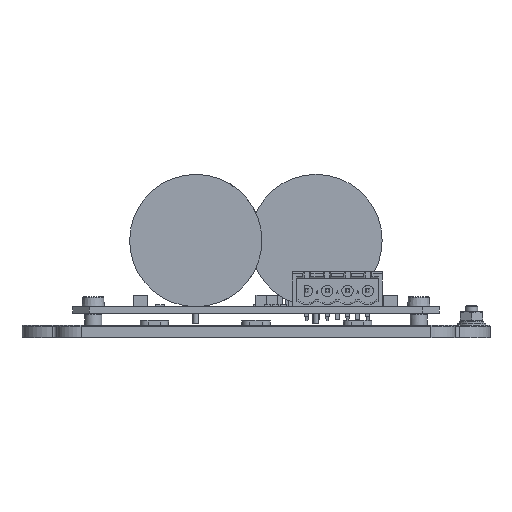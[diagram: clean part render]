
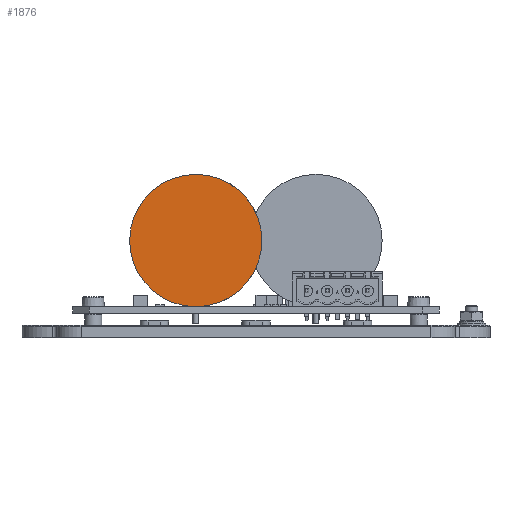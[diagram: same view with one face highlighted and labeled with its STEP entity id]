
A CAD part, front view. The second image highlights one B-rep face of the part: STEP entity #1876.
In plain terms, the highlighted planar face has unit normal (0, -1, 0).
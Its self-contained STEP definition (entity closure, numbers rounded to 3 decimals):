
#1214=CIRCLE('',#17134,16.25);
#1876=ADVANCED_FACE('',(#3366),#2685,.T.);
#2685=PLANE('',#17135);
#3366=FACE_OUTER_BOUND('',#4314,.T.);
#4314=EDGE_LOOP('',(#6408,#6409));
#6408=ORIENTED_EDGE('',*,*,#11822,.F.);
#6409=ORIENTED_EDGE('',*,*,#11823,.T.);
#10080=VERTEX_POINT('',#24230);
#10081=VERTEX_POINT('',#24231);
#11822=EDGE_CURVE('',#10080,#10081,#1214,.T.);
#11823=EDGE_CURVE('',#10080,#10081,#13832,.T.);
#13832=LINE('',#24232,#15427);
#15427=VECTOR('',#19609,1.);
#17134=AXIS2_PLACEMENT_3D('',#24229,#19607,#19608);
#17135=AXIS2_PLACEMENT_3D('',#24233,#19610,#19611);
#19607=DIRECTION('',(0.,1.,0.));
#19608=DIRECTION('',(0.,0.,-1.));
#19609=DIRECTION('',(1.,0.,0.));
#19610=DIRECTION('',(0.,-1.,0.));
#19611=DIRECTION('',(0.,0.,-1.));
#24229=CARTESIAN_POINT('',(-14.8,-33.,20.84));
#24230=CARTESIAN_POINT('',(-14.859,-33.,4.59));
#24231=CARTESIAN_POINT('',(-14.741,-33.,4.59));
#24232=CARTESIAN_POINT('',(-14.8,-33.,4.59));
#24233=CARTESIAN_POINT('',(-14.8,-33.,4.59));
